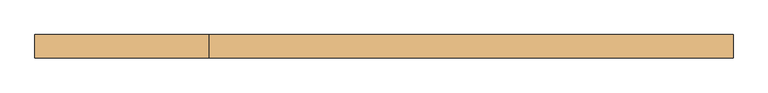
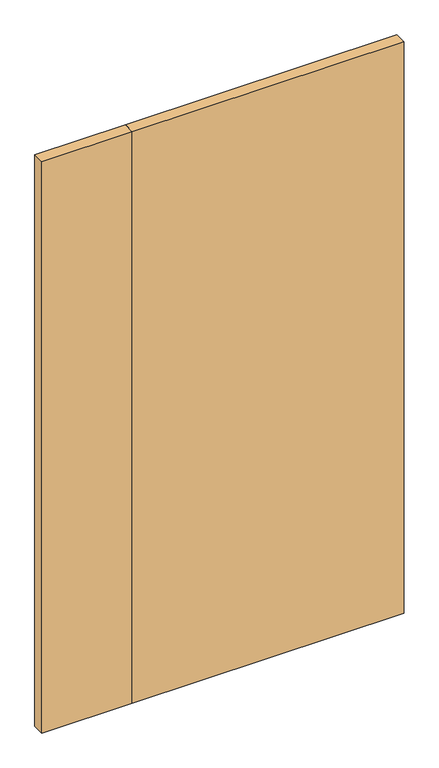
"""IFC4 building model written with IfcOpenShell, lengths in millimetres: door geometry, 営_親子扉 : LD2 1200*2000."""

from ifc_helpers import new_model, si_unit, origin, origin_with_axes, place, context, project, spatial, polyline, outline, extrude, source, transform, mapped, element, save


def door_c235f466(model_context):
    return source(origin(), model_context, "Body", "SweptSolid", [
        extrude(outline(polyline([(-300.0, -15.0), (600.0, -15.0), (600.0, -55.0), (-300.0, -55.0), (-300.0, -15.0)])), origin_with_axes(), (0.0, 0.0, 1.0), 2000.0),
        extrude(outline(polyline([(-300.0, -15.0), (-300.0, -55.0), (-600.0, -55.0), (-600.0, -15.0), (-300.0, -15.0)])), origin_with_axes(), (0.0, 0.0, 1.0), 2000.0),
    ])


if __name__ == "__main__":
    model = new_model("IFC4")
    model_context = context("Model", 3, world=origin())
    ifc_project = project(units=[si_unit("LENGTHUNIT", "METRE", prefix="MILLI")], contexts=[model_context])
    site = spatial("IfcSite", under=ifc_project)
    building = spatial("IfcBuilding", under=site)
    placement = place(None, origin())
    door_shape = door_c235f466(model_context)
    element("IfcDoor", 1, ObjectType="営_親子扉 : LD2 1200*2000", at=placement, inside=building, context=model_context, shape_type="MappedRepresentation", body=[
        mapped(door_shape, transform((0.0, 0.0, 0.0), x_axis=(1.0, 0.0, 0.0), y_axis=(0.0, 1.0, 0.0), z_axis=(0.0, 0.0, 1.0))),
    ])
    save(model, "model.ifc")
